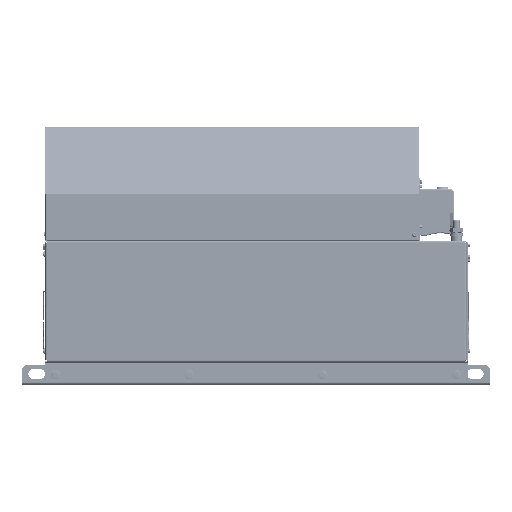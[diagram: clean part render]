
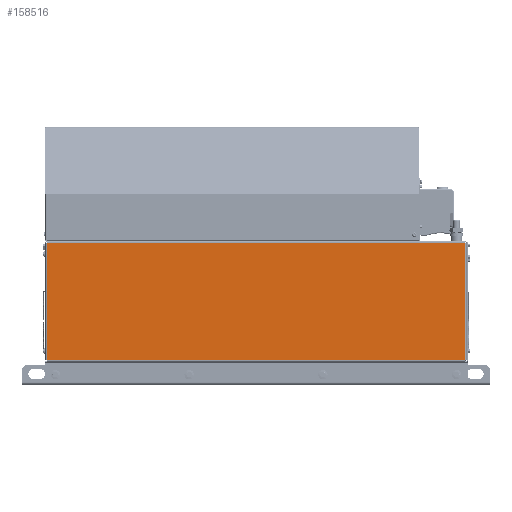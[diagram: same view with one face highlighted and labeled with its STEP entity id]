
A CAD part, left-side view. The second image highlights one B-rep face of the part: STEP entity #158516.
In plain terms, the highlighted planar face has unit normal (-1, 0, 0).
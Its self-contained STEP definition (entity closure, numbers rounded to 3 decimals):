
#19269=FACE_OUTER_BOUND('',#28741,.T.);
#28741=EDGE_LOOP('',(#102256,#102257,#102258,#102259));
#39007=LINE('',#234851,#50318);
#39175=LINE('',#235436,#50486);
#39242=LINE('',#236134,#50553);
#39243=LINE('',#236135,#50554);
#50318=VECTOR('',#186634,10.);
#50486=VECTOR('',#187020,10.);
#50553=VECTOR('',#187189,10.);
#50554=VECTOR('',#187190,10.);
#61882=VERTEX_POINT('',#234844);
#61885=VERTEX_POINT('',#234849);
#62065=VERTEX_POINT('',#235420);
#62145=VERTEX_POINT('',#236133);
#76835=EDGE_CURVE('',#61882,#61885,#39007,.T.);
#77065=EDGE_CURVE('',#61885,#62065,#39175,.T.);
#77174=EDGE_CURVE('',#61882,#62145,#39242,.T.);
#77175=EDGE_CURVE('',#62145,#62065,#39243,.T.);
#102256=ORIENTED_EDGE('',*,*,#77174,.F.);
#102257=ORIENTED_EDGE('',*,*,#76835,.T.);
#102258=ORIENTED_EDGE('',*,*,#77065,.T.);
#102259=ORIENTED_EDGE('',*,*,#77175,.F.);
#146038=PLANE('',#168441);
#158516=ADVANCED_FACE('',(#19269),#146038,.F.);
#168441=AXIS2_PLACEMENT_3D('',#236132,#187187,#187188);
#186634=DIRECTION('',(0.,1.,0.));
#187020=DIRECTION('',(0.,0.,-1.));
#187187=DIRECTION('center_axis',(1.,0.,0.));
#187188=DIRECTION('ref_axis',(0.,0.,
-1.));
#187189=DIRECTION('',(0.,0.,-1.));
#187190=DIRECTION('',(0.,1.,0.));
#234844=CARTESIAN_POINT('',(-225.,-312.7,212.7));
#234849=CARTESIAN_POINT('',(-225.,312.7,212.7));
#234851=CARTESIAN_POINT('',(-225.,315.,212.7));
#235420=CARTESIAN_POINT('',(-225.,312.7,36.353));
#235436=CARTESIAN_POINT('',(-225.,312.7,116.05));
#236132=CARTESIAN_POINT('Origin',(-225.,-315.,35.4));
#236133=CARTESIAN_POINT('',(-225.,-312.7,36.353));
#236134=CARTESIAN_POINT('',(-225.,-312.7,196.71));
#236135=CARTESIAN_POINT('',(-225.,-315.,36.353));
